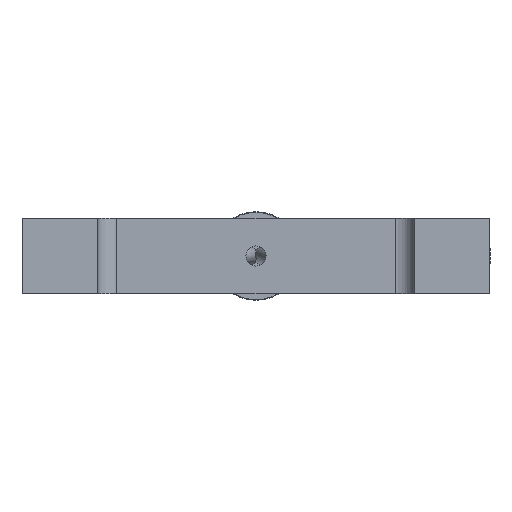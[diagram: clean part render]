
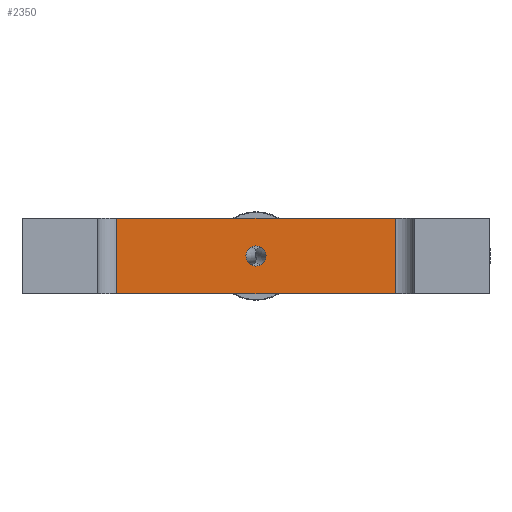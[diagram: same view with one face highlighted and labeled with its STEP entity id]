
A CAD part, left-side view. The second image highlights one B-rep face of the part: STEP entity #2350.
In plain terms, the highlighted planar face has unit normal (-1, 0, 0).
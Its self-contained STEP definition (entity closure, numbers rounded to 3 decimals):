
#112=LINE($,#4261,#200);
#114=LINE($,#4267,#202);
#115=LINE($,#4269,#203);
#116=LINE($,#4270,#204);
#200=VECTOR($,#3333,12.);
#202=VECTOR($,#3339,44.);
#203=VECTOR($,#3340,12.);
#204=VECTOR($,#3341,44.);
#307=PLANE($,#2666);
#402=FACE_BOUND($,#790,.T.);
#403=FACE_BOUND($,#791,.T.);
#790=EDGE_LOOP($,(#1908));
#791=EDGE_LOOP($,(#1909,#1910,#1911,#1912));
#958=CIRCLE($,#2655,1.6);
#1146=VERTEX_POINT($,#4242);
#1153=VERTEX_POINT($,#4258);
#1154=VERTEX_POINT($,#4260);
#1156=VERTEX_POINT($,#4266);
#1157=VERTEX_POINT($,#4268);
#1404=EDGE_CURVE($,#1146,#1146,#958,.T.);
#1411=EDGE_CURVE($,#1153,#1154,#112,.T.);
#1414=EDGE_CURVE($,#1153,#1156,#114,.T.);
#1415=EDGE_CURVE($,#1157,#1156,#115,.T.);
#1416=EDGE_CURVE($,#1157,#1154,#116,.T.);
#1908=ORIENTED_EDGE($,*,*,#1404,.T.);
#1909=ORIENTED_EDGE($,*,*,#1411,.F.);
#1910=ORIENTED_EDGE($,*,*,#1414,.T.);
#1911=ORIENTED_EDGE($,*,*,#1415,.F.);
#1912=ORIENTED_EDGE($,*,*,#1416,.T.);
#2350=ADVANCED_FACE($,(#402,#403),#307,.T.);
#2655=AXIS2_PLACEMENT_3D($,#4243,#3313,#3314);
#2666=AXIS2_PLACEMENT_3D($,#4265,#3337,#3338);
#3313=DIRECTION('center_axis',(1.,0.,0.));
#3314=DIRECTION('ref_axis',(0.,0.,-1.));
#3333=DIRECTION($,(0.,0.,1.));
#3337=DIRECTION('center_axis',(-1.,0.,0.));
#3338=DIRECTION('ref_axis',(0.,0.,1.));
#3339=DIRECTION($,(0.,-1.,0.));
#3340=DIRECTION($,(0.,0.,-1.));
#3341=DIRECTION($,(0.,1.,0.));
#4242=CARTESIAN_POINT('',(37.,0.,7.6));
#4243=CARTESIAN_POINT('Origin',(37.,0.,6.));
#4258=CARTESIAN_POINT('',(37.,22.,0.));
#4260=CARTESIAN_POINT('',(37.,22.,12.));
#4261=CARTESIAN_POINT($,(37.,22.,0.));
#4265=CARTESIAN_POINT('Origin',(37.,-25.,0.));
#4266=CARTESIAN_POINT('',(37.,-22.,0.));
#4267=CARTESIAN_POINT($,(37.,25.,0.));
#4268=CARTESIAN_POINT('',(37.,-22.,12.));
#4269=CARTESIAN_POINT($,(37.,-22.,0.));
#4270=CARTESIAN_POINT($,(37.,25.,12.));
